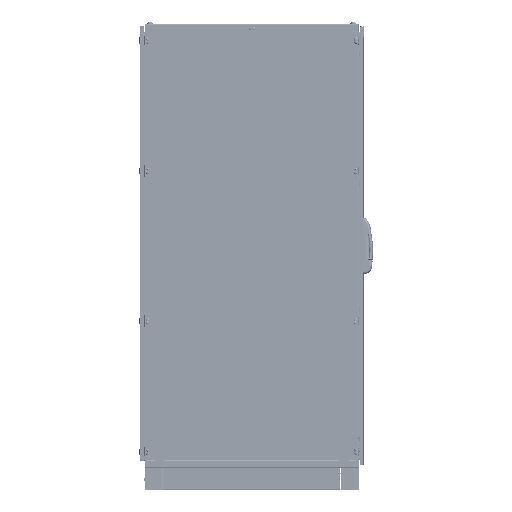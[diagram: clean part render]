
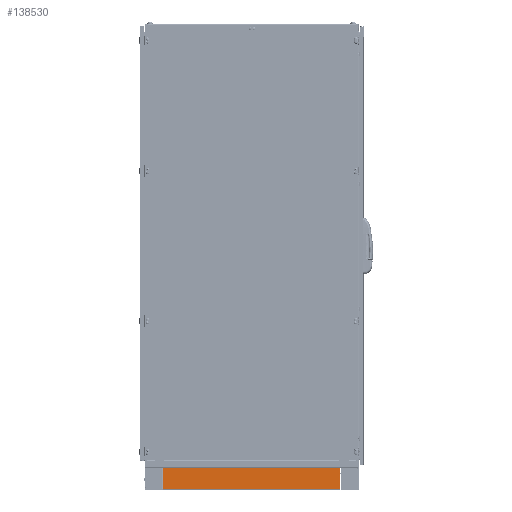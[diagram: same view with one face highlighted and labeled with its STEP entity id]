
A CAD part, top view. The second image highlights one B-rep face of the part: STEP entity #138530.
In plain terms, the highlighted planar face has unit normal (0, 0, 1) as drawn and (0, -1, 0) by its records, which use the part's own axes.
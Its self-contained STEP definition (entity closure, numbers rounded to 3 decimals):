
#13249 = DIRECTION ( 'NONE',  ( 1., 0., 0. ) ) ;
#42239 = CARTESIAN_POINT ( 'NONE',  ( 1.51, 0., 0. ) ) ;
#67501 = VERTEX_POINT ( 'NONE', #406669 ) ;
#91310 = CARTESIAN_POINT ( 'NONE',  ( 0., 0., -96.5 ) ) ;
#101487 = LINE ( 'NONE', #42239, #517104 ) ;
#115156 = DIRECTION ( 'NONE',  ( 0., 0., -1. ) ) ;
#138530 = ADVANCED_FACE ( 'NONE', ( #289216 ), #285540, .T. ) ;
#140856 = EDGE_CURVE ( 'NONE', #335573, #383175, #101487, .T. ) ;
#150008 = EDGE_CURVE ( 'NONE', #617820, #383175, #261683, .T. ) ;
#180102 = LINE ( 'NONE', #628524, #372771 ) ;
#218086 = VECTOR ( 'NONE', #304973, 1000. ) ;
#220498 = ORIENTED_EDGE ( 'NONE', *, *, #691464, .F. ) ;
#261683 = LINE ( 'NONE', #91310, #302717 ) ;
#285540 = PLANE ( 'NONE',  #728094 ) ;
#289216 = FACE_OUTER_BOUND ( 'NONE', #404052, .T. ) ;
#294284 = CARTESIAN_POINT ( 'NONE',  ( 802.49, 0., -96.5 ) ) ;
#302717 = VECTOR ( 'NONE', #713734, 1000. ) ;
#304973 = DIRECTION ( 'NONE',  ( 0., 0., 1. ) ) ;
#331121 = DIRECTION ( 'NONE',  ( 0., 0., -1. ) ) ;
#335573 = VERTEX_POINT ( 'NONE', #373269 ) ;
#341130 = DIRECTION ( 'NONE',  ( 0., -1., 0. ) ) ;
#353275 = CARTESIAN_POINT ( 'NONE',  ( 802.49, 0., -96.5 ) ) ;
#372771 = VECTOR ( 'NONE', #13249, 1000. ) ;
#373269 = CARTESIAN_POINT ( 'NONE',  ( 1.51, 0., 0. ) ) ;
#383175 = VERTEX_POINT ( 'NONE', #618131 ) ;
#404052 = EDGE_LOOP ( 'NONE', ( #601838, #675845, #220498, #597110 ) ) ;
#405173 = LINE ( 'NONE', #353275, #218086 ) ;
#406669 = CARTESIAN_POINT ( 'NONE',  ( 802.49, 0., 0. ) ) ;
#517104 = VECTOR ( 'NONE', #331121, 1000. ) ;
#597110 = ORIENTED_EDGE ( 'NONE', *, *, #140856, .T. ) ;
#601838 = ORIENTED_EDGE ( 'NONE', *, *, #150008, .F. ) ;
#617820 = VERTEX_POINT ( 'NONE', #294284 ) ;
#618131 = CARTESIAN_POINT ( 'NONE',  ( 1.51, 0., -96.5 ) ) ;
#622782 = CARTESIAN_POINT ( 'NONE',  ( 0., 0., -96.5 ) ) ;
#628524 = CARTESIAN_POINT ( 'NONE',  ( 0., 0., 0. ) ) ;
#675749 = EDGE_CURVE ( 'NONE', #617820, #67501, #405173, .T. ) ;
#675845 = ORIENTED_EDGE ( 'NONE', *, *, #675749, .T. ) ;
#691464 = EDGE_CURVE ( 'NONE', #335573, #67501, #180102, .T. ) ;
#713734 = DIRECTION ( 'NONE',  ( -1., 0., 0. ) ) ;
#728094 = AXIS2_PLACEMENT_3D ( 'NONE', #622782, #341130, #115156 ) ;
